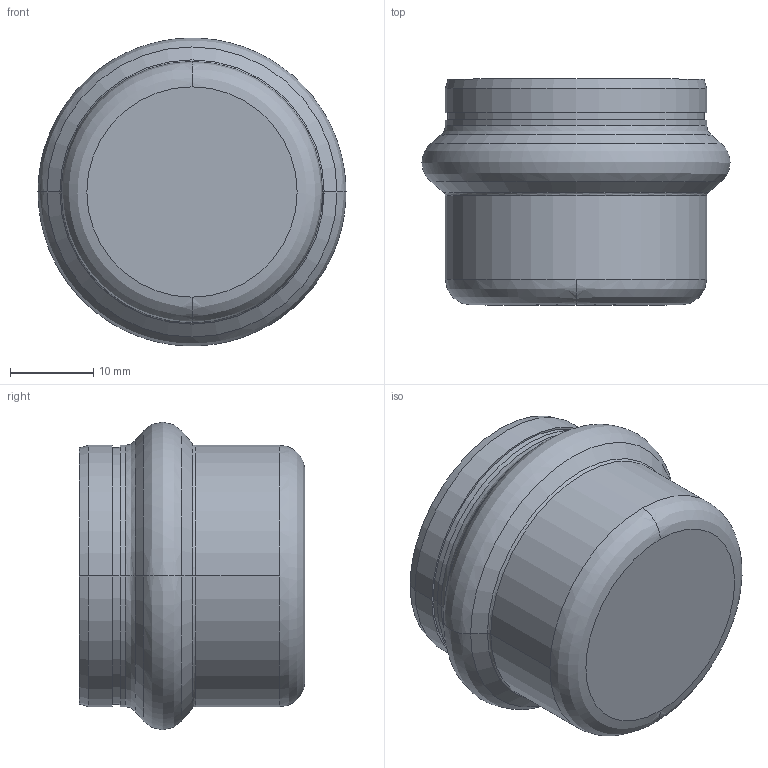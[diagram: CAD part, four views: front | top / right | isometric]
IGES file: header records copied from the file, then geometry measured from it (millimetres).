
Start section: Elysium IGES Interface
Global section: file name: C:\3d modellen sudo\C-Pr VP\SP8301VW\8301VW28.igs; native system: CoCreate Modeling 17.00A  17-Jun-2010; preprocessor: CoCreate IGES_3D V2.2; author: Unknown; organization: Unknown; date: 20130305.132844; units: millimetre
Bounding box: 36.9 x 27.05 x 36.88 mm (x, y, z)
Volume: 6278.6 mm3; surface area: 6891.6 mm2
Topology: 1 solids, 1 shells, 40 faces, 84 edges, 48 vertices
Faces by surface type: bspline 40
